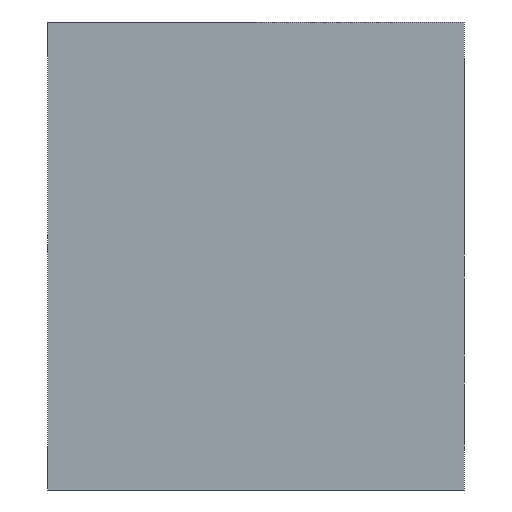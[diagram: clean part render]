
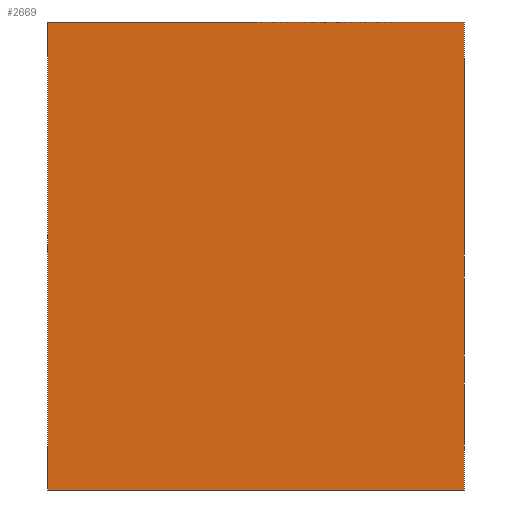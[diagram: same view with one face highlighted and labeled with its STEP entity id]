
A CAD part, left-side view. The second image highlights one B-rep face of the part: STEP entity #2669.
In plain terms, the highlighted planar face has unit normal (-1, 0, 0).
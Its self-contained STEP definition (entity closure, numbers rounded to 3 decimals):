
#20=DIRECTION('',(0.,-1.,0.));
#21=VECTOR('',#20,40.);
#22=CARTESIAN_POINT('',(-80.,40.,0.));
#23=LINE('',#22,#21);
#81=DIRECTION('',(0.,0.,1.));
#82=VECTOR('',#81,45.);
#83=CARTESIAN_POINT('',(-80.,40.,0.));
#84=LINE('',#83,#82);
#312=DIRECTION('',(0.,0.,1.));
#313=VECTOR('',#312,45.);
#314=CARTESIAN_POINT('',(-80.,0.,0.));
#315=LINE('',#314,#313);
#463=DIRECTION('',(0.,-1.,0.));
#464=VECTOR('',#463,40.);
#465=CARTESIAN_POINT('',(-80.,40.,45.));
#466=LINE('',#465,#464);
#2363=CARTESIAN_POINT('',(-80.,40.,0.));
#2364=CARTESIAN_POINT('',(-80.,0.,0.));
#2365=VERTEX_POINT('',#2363);
#2366=VERTEX_POINT('',#2364);
#2371=CARTESIAN_POINT('',(-80.,40.,45.));
#2372=CARTESIAN_POINT('',(-80.,0.,45.));
#2373=VERTEX_POINT('',#2371);
#2374=VERTEX_POINT('',#2372);
#2655=CARTESIAN_POINT('',(-80.,40.,0.));
#2656=DIRECTION('',(-1.,0.,0.));
#2657=DIRECTION('',(0.,-1.,0.));
#2658=AXIS2_PLACEMENT_3D('',#2655,#2656,#2657);
#2659=PLANE('',#2658);
#2660=ORIENTED_EDGE('',*,*,#2620,.F.);
#2662=ORIENTED_EDGE('',*,*,#2661,.T.);
#2664=ORIENTED_EDGE('',*,*,#2663,.T.);
#2666=ORIENTED_EDGE('',*,*,#2665,.F.);
#2667=EDGE_LOOP('',(#2660,#2662,#2664,#2666));
#2668=FACE_OUTER_BOUND('',#2667,.F.);
#2620=EDGE_CURVE('',#2365,#2366,#23,.T.);
#2661=EDGE_CURVE('',#2365,#2373,#84,.T.);
#2663=EDGE_CURVE('',#2373,#2374,#466,.T.);
#2665=EDGE_CURVE('',#2366,#2374,#315,.T.);
#2669=ADVANCED_FACE('',(#2668),#2659,.T.);
